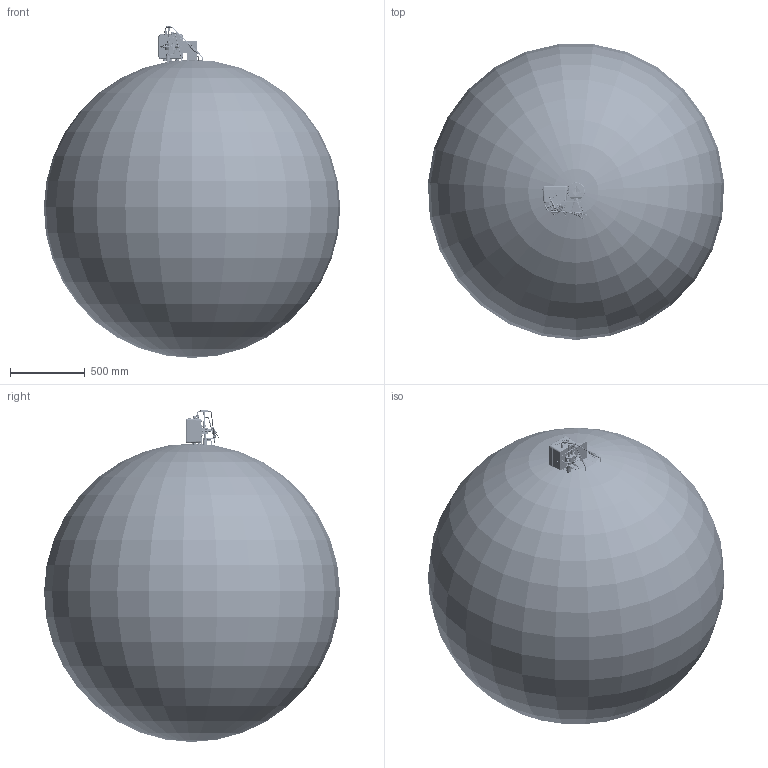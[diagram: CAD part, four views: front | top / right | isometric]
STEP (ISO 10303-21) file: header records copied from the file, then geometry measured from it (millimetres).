
FILE_DESCRIPTION(('STEP AP242'), '1');
FILE_NAME('ÑÃ-ÝÊÐ-Ð-100 ÐÂÃ-Á ñ ÏÏÄ ñíèçó ââåðõ êîðð ñëåâà', '', ('UNSPECIFIED'), ('UNSPECIFIED'), 'C3D Converter', 'C3D Toolkit', '');
FILE_SCHEMA(('AP242_MANAGED_MODEL_BASED_3D_ENGINEERING_MIM_LF { 1 0 10303 442 1 1 4 }'));
Length unit declared in the file: millimetre
Bounding box: 1985.41 x 1982.05 x 2224.25 mm (x, y, z)
Volume: 4138356702.7 mm3; surface area: 13736110.5 mm2
Topology: 178 solids, 179 shells, 9760 faces, 25177 edges, 16302 vertices
Faces by surface type: plane 3462, extrusion 2891, cylinder 1836, cone 841, bspline 455, torus 235, sphere 40
Full cylindrical faces by diameter (mm): 1.5 x8, 1.95 x3, 2 x41, 2.2 x14, 2.3 x8, 2.459 x11, 2.5 x20, 2.791 x2, 3 x27, 3.2 x11, 3.242 x9, 3.3 x4, 3.45 x3, 3.459 x2, 3.688 x1, 3.9 x4, 4 x50, 4.134 x9, 4.3 x12, 4.5 x1, 4.917 x15, 5 x26, 5.2 x12, 5.5 x10, 6 x55, 6.2 x4, 6.5 x6, 6.6 x4, 7 x18, 8 x10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
Entity records: 519570 total; most frequent: CARTESIAN_POINT 223463, ORIENTED_EDGE 47428, DIRECTION 34783, EDGE_CURVE 23715, VERTEX_POINT 16236, VECTOR 13635, EDGE_LOOP 12095, B_SPLINE_CURVE_WITH_KNOTS 11340
